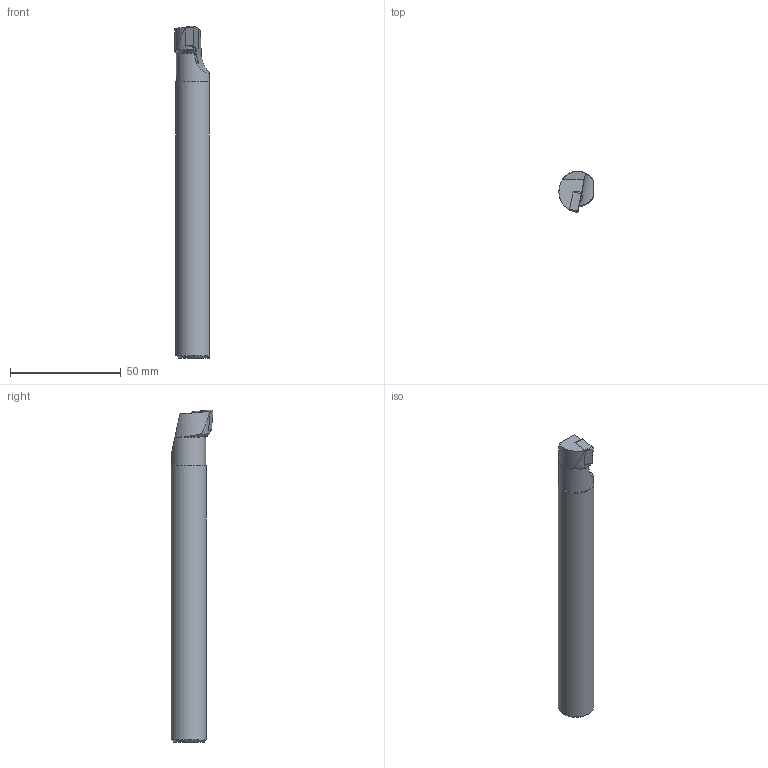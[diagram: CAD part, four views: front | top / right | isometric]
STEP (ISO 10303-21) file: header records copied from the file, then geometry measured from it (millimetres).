
FILE_DESCRIPTION(/* description */ (''),/* implementation_level */ '2;1');
FILE_NAME(/* name */ 'A16M-SCLCR-09-HAAS.stp',/* time_stamp */ '2021-09-29T09:21:32+09:00',/* author */ (''),/* organization */ (''),/* preprocessor_version */ 'ST-DEVELOPER v16.7',/* originating_system */ 'SIEMENS PLM Software NX 1946',/* authorisation */ '');
FILE_SCHEMA (('AUTOMOTIVE_DESIGN { 1 0 10303 214 3 1 1 1 }'));
Length unit declared in the file: millimetre
Products named in the file (1): user0130CD5E65ob
Bounding box: 15.44 x 18.95 x 149.96 mm (x, y, z)
Volume: 25634.8 mm3; surface area: 9984.2 mm2
Topology: 2 solids, 2 shells, 26 faces, 64 edges, 42 vertices
Faces by surface type: plane 12, cone 8, cylinder 5, bspline 1
Full cylindrical faces by diameter (mm): 2.5 x1, 5 x1
Entity records: 959 total; most frequent: CARTESIAN_POINT 249, ORIENTED_EDGE 122, DIRECTION 122, EDGE_CURVE 61, AXIS2_PLACEMENT_3D 48, VERTEX_POINT 41, EDGE_LOOP 30, LINE 26
